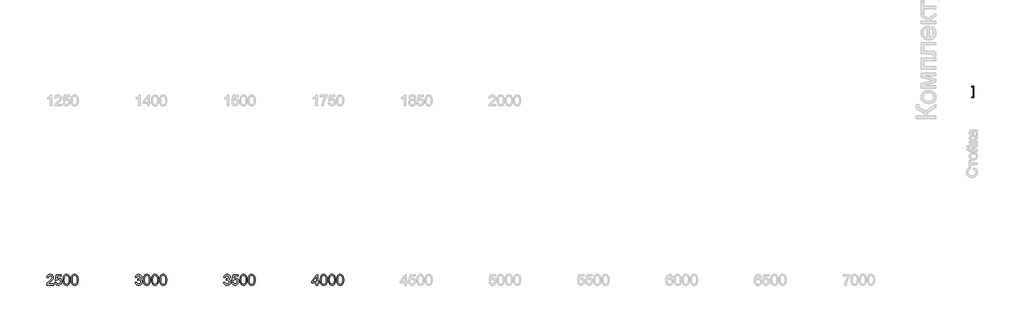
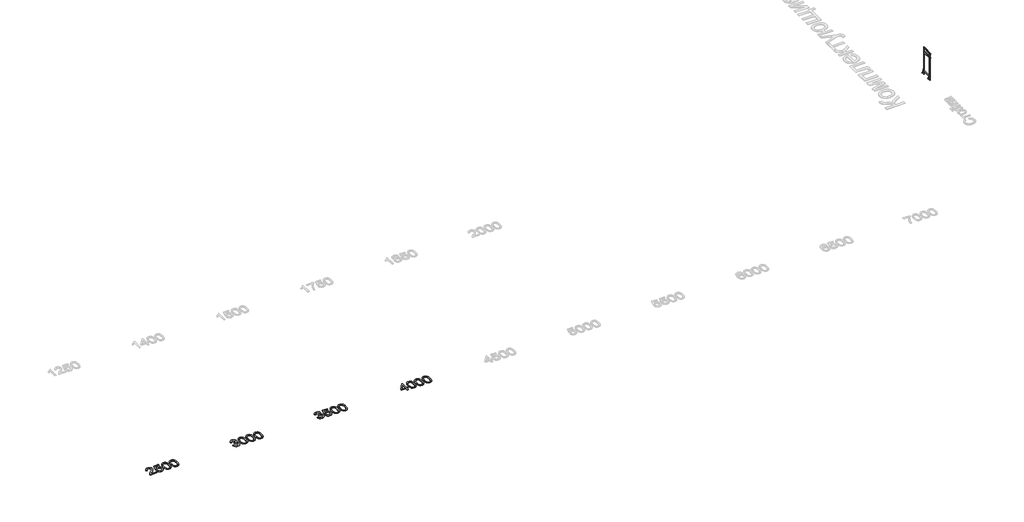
# One storey, part 1 of 8: 5 proxies.
"""IFC4 building model written with IfcOpenShell, lengths in millimetres."""

from ifc_helpers import new_model, si_unit, origin, origin_with_axes, place, context, project, spatial, polyline, outline, extrude, transform, mapped, element, save
from components import mechanical_equipment_65d36d6c

model = new_model("IFC4")

# Units and contexts
model_context = context("Model", 3, world=origin())
ifc_project = project(units=[si_unit("LENGTHUNIT", "METRE", prefix="MILLI")], contexts=[model_context])

# Site, building, storey
site = spatial("IfcSite", under=ifc_project)
building = spatial("IfcBuilding", under=site)
storey = spatial("IfcBuildingStorey", under=building, Name="Этаж 01", Elevation=0.0)

# Proxies
placement = place(None, origin())
element("IfcBuildingElementProxy", 1, Name="600 мм Arial", ObjectType="600 мм Arial", at=placement, inside=storey, context=model_context, shape_type="SweptSolid", body=[
    extrude(outline(polyline([(-17285.2712332, -33688.2668626), (-17209.9290006, -33678.8490835), (-17193.0616111, -33726.1954963), (-17181.6894589, -33744.1021524), (-17168.3583351, -33758.1644417), (-17152.7647371, -33768.7870343), (-17134.6051621, -33776.3746005), (-17113.8796102, -33780.9271402), (-17090.5880813, -33782.4446534), (-17063.2912373, -33780.3569231), (-17038.9374492, -33774.0937321), (-17017.5267171, -33763.6550805), (-16999.0590409, -33749.0409682), (-16984.1874113, -33731.3458443), (-16973.5648187, -33711.6641575), (-16967.1912631, -33689.995908), (-16965.0667446, -33666.3410957), (-16967.172869, -33643.812922), (-16973.4912423, -33623.3172964), (-16984.0218644, -33604.8542187), (-16998.7647353, -33588.4236891), (-17016.7541649, -33574.9362155), (-17037.0244628, -33565.3023057), (-17059.5756292, -33559.5219599), (-17084.4076638, -33557.5951779), (-17108.2096289, -33559.6553171), (-17137.2355183, -33565.8357346), (-17128.8478088, -33490.493502), (-17116.7812794, -33491.3764188), (-17071.6421586, -33485.9685535), (-17031.2855037, -33469.7449575), (-17014.6756316, -33457.476093), (-17002.8114373, -33442.3009607), (-16995.6929207, -33424.2195606), (-16993.3200818, -33403.2318928), (-16995.0399301, -33386.1943579), (-17000.1994751, -33370.6927303), (-17008.7987168, -33356.72701), (-17020.8376551, -33344.2971971), (-17035.5897231, -33334.0930703), (-17052.3283538, -33326.8044083), (-17091.7653037, -33320.9734786), (-17112.4218778, -33322.4450066), (-17131.27583, -33326.8595906), (-17148.3271605, -33334.2172305), (-17163.5758692, -33344.5179263), (-17176.6448771, -33357.7616782), (-17187.1571051, -33373.9484859), (-17195.1125532, -33393.0783497), (-17200.5112215, -33415.1512694), (-17275.8534541, -33405.7334903), (-17266.9231187, -33369.7638283), (-17253.6701698, -33338.0799914), (-17236.0946075, -33310.6819798), (-17214.1964317, -33287.5697935), (-17188.6654213, -33269.221679), (-17160.1913548, -33256.1158829), (-17128.7742324, -33248.2524052), (-17094.4140541, -33245.631246), (-17047.0492472, -33250.7999881), (-17003.5472013, -33266.3062142), (-16966.8693664, -33290.7703668), (-16939.9771925, -33322.8128886), (-16923.477685, -33359.7298468), (-16917.9778492, -33398.8173088), (-16923.2017735, -33435.2376263), (-16938.8735465, -33468.2734295), (-16964.772439, -33496.4164021), (-17000.6777217, -33518.1582281), (-16975.5697756, -33526.0125087), (-16953.5152499, -33537.2145154), (-16934.5141449, -33551.7642483), (-16918.5664604, -33569.6617074), (-16905.948108, -33590.4654342), (-16896.9349991, -33613.7339704), (-16891.5271338, -33639.467316), (-16889.724512, -33667.6654709), (-16893.3297555, -33705.8884102), (-16904.1454862, -33741.0947171), (-16922.171704, -33773.2843917), (-16947.4084088, -33802.4574339), (-16978.1541466, -33826.6640692), (-17012.707463, -33843.954523), (-17051.068358, -33854.3287952), (-17093.2368317, -33857.786886), (-17131.3494064, -33854.834633), (-17166.0774668, -33845.977874), (-17197.4210127, -33831.2166089), (-17225.3800444, -33810.5508378), (-17248.8233245, -33785.1945713), (-17266.619616, -33756.3618199), (-17278.7689189, -33724.0525837), (-17285.2712332, -33688.2668626)])), origin_with_axes(), (0.0, 0.0, 1.0), 20.0),
    extrude(outline(polyline([(-16823.8000584, -33688.2668626), (-16748.4578258, -33678.8490835), (-16742.8292313, -33703.0695144), (-16734.6254628, -33724.0801749), (-16723.8465204, -33741.8810649), (-16710.4924039, -33756.4721845), (-16694.5907047, -33767.8351397), (-16676.1690138, -33775.9515362), (-16655.2273312, -33780.8213741), (-16631.765657, -33782.4446534), (-16603.0708613, -33780.1867776), (-16577.7605801, -33773.4131504), (-16555.8348132, -33762.1237717), (-16537.2935606, -33746.3186415), (-16522.5506896, -33726.779509), (-16512.0200675, -33704.2881235), (-16505.7016943, -33678.844485), (-16503.5955698, -33650.4485935), (-16505.568337, -33623.611602), (-16511.4866386, -33599.7544546), (-16521.3504746, -33578.8771514), (-16535.159845, -33560.9796923), (-16552.9607351, -33546.6230974), (-16574.79913, -33536.3683868), (-16600.6750298, -33530.2155604), (-16630.5884346, -33528.1646183), (-16667.1375108, -33531.4387681), (-16696.7336173, -33541.2612174), (-16720.3700355, -33556.307591), (-16739.0400468, -33575.2535137), (-16814.3822794, -33565.8357346), (-16748.4578258, -33255.0490251), (-16456.5066745, -33255.0490251), (-16456.5066745, -33330.3912577), (-16687.5365674, -33330.3912577), (-16719.7630302, -33496.3796139), (-16693.174359, -33477.3233266), (-16665.9418943, -33463.7116928), (-16638.0656361, -33455.5447125), (-16609.5455845, -33452.8223857), (-16572.853954, -33456.197703), (-16539.1513647, -33466.3236549), (-16508.4378166, -33483.2002415), (-16480.7133097, -33506.8274626), (-16457.7620718, -33535.7613815), (-16441.3683304, -33568.5580614), (-16431.5320855, -33605.2175022), (-16428.2533372, -33645.739704), (-16431.2055902, -33684.7719837), (-16440.0623493, -33721.0819366), (-16454.8236143, -33754.6695628), (-16475.4893854, -33785.5348622), (-16506.7961432, -33817.1451226), (-16543.3268253, -33839.72388), (-16585.0814318, -33853.2711345), (-16632.0599626, -33857.786886), (-16670.9404909, -33854.8852168), (-16706.0594259, -33846.1802091), (-16737.4167675, -33831.6718629), (-16765.0125156, -33811.3601782), (-16787.9729506, -33786.2568306), (-16805.4243528, -33757.3734954), (-16817.3667221, -33724.7101728), (-16823.8000584, -33688.2668626)])), origin_with_axes(), (0.0, 0.0, 1.0), 20.0),
    extrude(outline(polyline([(-16362.3288837, -33551.8562188), (-16356.7922597, -33455.3791656), (-16349.8714796, -33414.4660892), (-16340.1823876, -33378.4366463), (-16327.7663702, -33346.9965313), (-16312.6648143, -33319.8514386), (-16294.8777199, -33297.0013681), (-16274.4050868, -33278.44632), (-16251.1779374, -33264.0897251), (-16225.1272936, -33253.8350145), (-16196.2531555, -33247.6821882), (-16164.5555231, -33245.631246), (-16118.1288153, -33250.4872884), (-16076.5581498, -33265.0554154), (-16041.7933013, -33288.76541), (-16015.7840442, -33321.047055), (-15996.1391457, -33361.6244391), (-15980.4673727, -33410.2216507), (-15970.203465, -33471.9338554), (-15966.7821625, -33551.8562188), (-15972.2636042, -33647.7814491), (-15979.1154064, -33688.5565697), (-15988.7079294, -33724.5400273), (-16001.0273777, -33755.9939379), (-16016.0599557, -33783.1804174), (-16033.8056635, -33806.0994657), (-16054.2645009, -33824.7510828), (-16077.5192416, -33839.2042467), (-16103.6526588, -33849.5279352), (-16132.6647526, -33855.7221483), (-16164.5555231, -33857.786886), (-16206.0526121, -33854.2000365), (-16242.8408117, -33843.4394882), (-16274.9201216, -33825.5052409), (-16302.2905421, -33800.3972948), (-16328.5573165, -33755.0098536), (-16347.3192983, -33698.4571939), (-16358.5764873, -33630.7393156), (-16362.3288837, -33551.8562188)]), holes=[polyline([(-16286.9866511, -33551.709066), (-16284.7793591, -33617.2058567), (-16278.1574832, -33670.2222508), (-16267.1210233, -33710.7582481), (-16251.6699795, -33738.8138488), (-16232.9815742, -33757.9023258), (-16212.2330297, -33771.5369522), (-16189.424346, -33779.7177281), (-16164.5555231, -33782.4446534), (-16139.6867002, -33779.7085311), (-16116.8780165, -33771.500164), (-16096.129472, -33757.8195523), (-16077.4410666, -33738.666696), (-16061.9900228, -33710.5651101), (-16050.953563, -33670.0383098), (-16044.3316871, -33617.0862951), (-16042.1243951, -33551.709066), (-16044.2581107, -33487.9459192), (-16050.6592574, -33435.8630257), (-16061.3278352, -33395.4603856), (-16076.2638442, -33366.7379988), (-16094.6395499, -33346.7160213), (-16115.6272177, -33332.4146087), (-16139.2268477, -33323.8337612), (-16165.4384399, -33320.9734786), (-16190.1785041, -33323.4934703), (-16212.6009117, -33331.0534453), (-16232.7056627, -33343.6534036), (-16250.4927572, -33361.2933453), (-16266.4588358, -33392.5633149), (-16277.8631776, -33434.7225915), (-16284.7057827, -33487.7711753), (-16286.9866511, -33551.709066)])]), origin_with_axes(), (0.0, 0.0, 1.0), 20.0),
    extrude(outline(polyline([(-15900.8577089, -33551.8562188), (-15895.3210849, -33455.3791656), (-15888.4003049, -33414.4660892), (-15878.7112128, -33378.4366463), (-15866.2951955, -33346.9965313), (-15851.1936396, -33319.8514386), (-15833.4065451, -33297.0013681), (-15812.9339121, -33278.44632), (-15789.7067626, -33264.0897251), (-15763.6561188, -33253.8350145), (-15734.7819807, -33247.6821882), (-15703.0843483, -33245.631246), (-15656.6576405, -33250.4872884), (-15615.0869751, -33265.0554154), (-15580.3221265, -33288.76541), (-15554.3128695, -33321.047055), (-15534.6679709, -33361.6244391), (-15518.996198, -33410.2216507), (-15508.7322903, -33471.9338554), (-15505.3109877, -33551.8562188), (-15510.7924295, -33647.7814491), (-15517.6442316, -33688.5565697), (-15527.2367546, -33724.5400273), (-15539.556203, -33755.9939379), (-15554.588781, -33783.1804174), (-15572.3344887, -33806.0994657), (-15592.7933262, -33824.7510828), (-15616.0480668, -33839.2042467), (-15642.181484, -33849.5279352), (-15671.1935779, -33855.7221483), (-15703.0843483, -33857.786886), (-15744.5814374, -33854.2000365), (-15781.3696369, -33843.4394882), (-15813.4489469, -33825.5052409), (-15840.8193673, -33800.3972948), (-15867.0861418, -33755.0098536), (-15885.8481235, -33698.4571939), (-15897.1053126, -33630.7393156), (-15900.8577089, -33551.8562188)]), holes=[polyline([(-15825.5154763, -33551.709066), (-15823.3081844, -33617.2058567), (-15816.6863084, -33670.2222508), (-15805.6498486, -33710.7582481), (-15790.1988048, -33738.8138488), (-15771.5103994, -33757.9023258), (-15750.7618549, -33771.5369522), (-15727.9531712, -33779.7177281), (-15703.0843483, -33782.4446534), (-15678.2155255, -33779.7085311), (-15655.4068418, -33771.500164), (-15634.6582972, -33757.8195523), (-15615.9698919, -33738.666696), (-15600.5188481, -33710.5651101), (-15589.4823882, -33670.0383098), (-15582.8605123, -33617.0862951), (-15580.6532203, -33551.709066), (-15582.7869359, -33487.9459192), (-15589.1880826, -33435.8630257), (-15599.8566605, -33395.4603856), (-15614.7926695, -33366.7379988), (-15633.1683752, -33346.7160213), (-15654.156043, -33332.4146087), (-15677.755673, -33323.8337612), (-15703.9672651, -33320.9734786), (-15728.7073293, -33323.4934703), (-15751.1297369, -33331.0534453), (-15771.2344879, -33343.6534036), (-15789.0215824, -33361.2933453), (-15804.987661, -33392.5633149), (-15816.3920029, -33434.7225915), (-15823.234608, -33487.7711753), (-15825.5154763, -33551.709066)])]), origin_with_axes(), (0.0, 0.0, 1.0), 20.0),
])
element("IfcBuildingElementProxy", 2, Name="600 мм Arial", ObjectType="600 мм Arial", at=placement, inside=storey, context=model_context, shape_type="SweptSolid", body=[
    extrude(outline(polyline([(-12040.4089772, -33848.3691069), (-12040.4089772, -33707.1024208), (-12313.5245704, -33707.1024208), (-12313.5245704, -33631.7601882), (-12021.5734191, -33255.0490251), (-11965.0667446, -33255.0490251), (-11965.0667446, -33631.7601882), (-11889.724512, -33631.7601882), (-11889.724512, -33707.1024208), (-11965.0667446, -33707.1024208), (-11965.0667446, -33848.3691069), (-12040.4089772, -33848.3691069)]), holes=[polyline([(-12040.4089772, -33631.7601882), (-12040.4089772, -33398.9644616), (-12220.8183076, -33631.7601882), (-12040.4089772, -33631.7601882)])]), origin_with_axes(), (0.0, 0.0, 1.0), 20.0),
    extrude(outline(polyline([(-11823.8000584, -33551.8562188), (-11818.2634344, -33455.3791656), (-11811.3426544, -33414.4660892), (-11801.6535623, -33378.4366463), (-11789.237545, -33346.9965313), (-11774.1359891, -33319.8514386), (-11756.3488946, -33297.0013681), (-11735.8762616, -33278.44632), (-11712.6491121, -33264.0897251), (-11686.5984683, -33253.8350145), (-11657.7243302, -33247.6821882), (-11626.0266978, -33245.631246), (-11579.59999, -33250.4872884), (-11538.0293246, -33265.0554154), (-11503.264476, -33288.76541), (-11477.255219, -33321.047055), (-11457.6103204, -33361.6244391), (-11441.9385475, -33410.2216507), (-11431.6746398, -33471.9338554), (-11428.2533372, -33551.8562188), (-11433.734779, -33647.7814491), (-11440.5865811, -33688.5565697), (-11450.1791041, -33724.5400273), (-11462.4985525, -33755.9939379), (-11477.5311305, -33783.1804174), (-11495.2768382, -33806.0994657), (-11515.7356757, -33824.7510828), (-11538.9904163, -33839.2042467), (-11565.1238335, -33849.5279352), (-11594.1359274, -33855.7221483), (-11626.0266978, -33857.786886), (-11667.5237869, -33854.2000365), (-11704.3119864, -33843.4394882), (-11736.3912964, -33825.5052409), (-11763.7617168, -33800.3972948), (-11790.0284913, -33755.0098536), (-11808.790473, -33698.4571939), (-11820.0476621, -33630.7393156), (-11823.8000584, -33551.8562188)]), holes=[polyline([(-11748.4578258, -33551.709066), (-11746.2505339, -33617.2058567), (-11739.6286579, -33670.2222508), (-11728.5921981, -33710.7582481), (-11713.1411543, -33738.8138488), (-11694.4527489, -33757.9023258), (-11673.7042044, -33771.5369522), (-11650.8955207, -33779.7177281), (-11626.0266978, -33782.4446534), (-11601.157875, -33779.7085311), (-11578.3491913, -33771.500164), (-11557.6006467, -33757.8195523), (-11538.9122414, -33738.666696), (-11523.4611976, -33710.5651101), (-11512.4247377, -33670.0383098), (-11505.8028618, -33617.0862951), (-11503.5955698, -33551.709066), (-11505.7292854, -33487.9459192), (-11512.1304321, -33435.8630257), (-11522.79901, -33395.4603856), (-11537.735019, -33366.7379988), (-11556.1107247, -33346.7160213), (-11577.0983925, -33332.4146087), (-11600.6980225, -33323.8337612), (-11626.9096146, -33320.9734786), (-11651.6496788, -33323.4934703), (-11674.0720864, -33331.0534453), (-11694.1768374, -33343.6534036), (-11711.9639319, -33361.2933453), (-11727.9300105, -33392.5633149), (-11739.3343524, -33434.7225915), (-11746.1769575, -33487.7711753), (-11748.4578258, -33551.709066)])]), origin_with_axes(), (0.0, 0.0, 1.0), 20.0),
    extrude(outline(polyline([(-11362.3288837, -33551.8562188), (-11356.7922597, -33455.3791656), (-11349.8714796, -33414.4660892), (-11340.1823876, -33378.4366463), (-11327.7663702, -33346.9965313), (-11312.6648143, -33319.8514386), (-11294.8777199, -33297.0013681), (-11274.4050868, -33278.44632), (-11251.1779374, -33264.0897251), (-11225.1272936, -33253.8350145), (-11196.2531555, -33247.6821882), (-11164.5555231, -33245.631246), (-11118.1288153, -33250.4872884), (-11076.5581498, -33265.0554154), (-11041.7933013, -33288.76541), (-11015.7840442, -33321.047055), (-10996.1391457, -33361.6244391), (-10980.4673727, -33410.2216507), (-10970.203465, -33471.9338554), (-10966.7821625, -33551.8562188), (-10972.2636042, -33647.7814491), (-10979.1154064, -33688.5565697), (-10988.7079294, -33724.5400273), (-11001.0273777, -33755.9939379), (-11016.0599557, -33783.1804174), (-11033.8056635, -33806.0994657), (-11054.2645009, -33824.7510828), (-11077.5192416, -33839.2042467), (-11103.6526588, -33849.5279352), (-11132.6647526, -33855.7221483), (-11164.5555231, -33857.786886), (-11206.0526121, -33854.2000365), (-11242.8408117, -33843.4394882), (-11274.9201216, -33825.5052409), (-11302.2905421, -33800.3972948), (-11328.5573165, -33755.0098536), (-11347.3192983, -33698.4571939), (-11358.5764873, -33630.7393156), (-11362.3288837, -33551.8562188)]), holes=[polyline([(-11286.9866511, -33551.709066), (-11284.7793591, -33617.2058567), (-11278.1574832, -33670.2222508), (-11267.1210233, -33710.7582481), (-11251.6699795, -33738.8138488), (-11232.9815742, -33757.9023258), (-11212.2330297, -33771.5369522), (-11189.424346, -33779.7177281), (-11164.5555231, -33782.4446534), (-11139.6867002, -33779.7085311), (-11116.8780165, -33771.500164), (-11096.129472, -33757.8195523), (-11077.4410666, -33738.666696), (-11061.9900228, -33710.5651101), (-11050.953563, -33670.0383098), (-11044.3316871, -33617.0862951), (-11042.1243951, -33551.709066), (-11044.2581107, -33487.9459192), (-11050.6592574, -33435.8630257), (-11061.3278352, -33395.4603856), (-11076.2638442, -33366.7379988), (-11094.6395499, -33346.7160213), (-11115.6272177, -33332.4146087), (-11139.2268477, -33323.8337612), (-11165.4384399, -33320.9734786), (-11190.1785041, -33323.4934703), (-11212.6009117, -33331.0534453), (-11232.7056627, -33343.6534036), (-11250.4927572, -33361.2933453), (-11266.4588358, -33392.5633149), (-11277.8631776, -33434.7225915), (-11284.7057827, -33487.7711753), (-11286.9866511, -33551.709066)])]), origin_with_axes(), (0.0, 0.0, 1.0), 20.0),
    extrude(outline(polyline([(-10900.8577089, -33551.8562188), (-10895.3210849, -33455.3791656), (-10888.4003049, -33414.4660892), (-10878.7112128, -33378.4366463), (-10866.2951955, -33346.9965313), (-10851.1936396, -33319.8514386), (-10833.4065451, -33297.0013681), (-10812.9339121, -33278.44632), (-10789.7067626, -33264.0897251), (-10763.6561188, -33253.8350145), (-10734.7819807, -33247.6821882), (-10703.0843483, -33245.631246), (-10656.6576405, -33250.4872884), (-10615.0869751, -33265.0554154), (-10580.3221265, -33288.76541), (-10554.3128695, -33321.047055), (-10534.6679709, -33361.6244391), (-10518.996198, -33410.2216507), (-10508.7322903, -33471.9338554), (-10505.3109877, -33551.8562188), (-10510.7924295, -33647.7814491), (-10517.6442316, -33688.5565697), (-10527.2367546, -33724.5400273), (-10539.556203, -33755.9939379), (-10554.588781, -33783.1804174), (-10572.3344887, -33806.0994657), (-10592.7933262, -33824.7510828), (-10616.0480668, -33839.2042467), (-10642.181484, -33849.5279352), (-10671.1935779, -33855.7221483), (-10703.0843483, -33857.786886), (-10744.5814374, -33854.2000365), (-10781.3696369, -33843.4394882), (-10813.4489469, -33825.5052409), (-10840.8193673, -33800.3972948), (-10867.0861418, -33755.0098536), (-10885.8481235, -33698.4571939), (-10897.1053126, -33630.7393156), (-10900.8577089, -33551.8562188)]), holes=[polyline([(-10825.5154763, -33551.709066), (-10823.3081844, -33617.2058567), (-10816.6863084, -33670.2222508), (-10805.6498486, -33710.7582481), (-10790.1988048, -33738.8138488), (-10771.5103994, -33757.9023258), (-10750.7618549, -33771.5369522), (-10727.9531712, -33779.7177281), (-10703.0843483, -33782.4446534), (-10678.2155255, -33779.7085311), (-10655.4068418, -33771.500164), (-10634.6582972, -33757.8195523), (-10615.9698919, -33738.666696), (-10600.5188481, -33710.5651101), (-10589.4823882, -33670.0383098), (-10582.8605123, -33617.0862951), (-10580.6532203, -33551.709066), (-10582.7869359, -33487.9459192), (-10589.1880826, -33435.8630257), (-10599.8566605, -33395.4603856), (-10614.7926695, -33366.7379988), (-10633.1683752, -33346.7160213), (-10654.156043, -33332.4146087), (-10677.755673, -33323.8337612), (-10703.9672651, -33320.9734786), (-10728.7073293, -33323.4934703), (-10751.1297369, -33331.0534453), (-10771.2344879, -33343.6534036), (-10789.0215824, -33361.2933453), (-10804.987661, -33392.5633149), (-10816.3920029, -33434.7225915), (-10823.234608, -33487.7711753), (-10825.5154763, -33551.709066)])]), origin_with_axes(), (0.0, 0.0, 1.0), 20.0),
])
element("IfcBuildingElementProxy", 3, Name="600 мм Arial", ObjectType="600 мм Arial", at=placement, inside=storey, context=model_context, shape_type="SweptSolid", body=[
    extrude(outline(polyline([(-22285.2712332, -33688.2668626), (-22209.9290006, -33678.8490835), (-22193.0616111, -33726.1954963), (-22181.6894589, -33744.1021524), (-22168.3583351, -33758.1644417), (-22152.7647371, -33768.7870343), (-22134.6051621, -33776.3746005), (-22113.8796102, -33780.9271402), (-22090.5880813, -33782.4446534), (-22063.2912373, -33780.3569231), (-22038.9374492, -33774.0937321), (-22017.5267171, -33763.6550805), (-21999.0590409, -33749.0409682), (-21984.1874113, -33731.3458443), (-21973.5648187, -33711.6641575), (-21967.1912631, -33689.995908), (-21965.0667446, -33666.3410957), (-21967.172869, -33643.812922), (-21973.4912423, -33623.3172964), (-21984.0218644, -33604.8542187), (-21998.7647353, -33588.4236891), (-22016.7541649, -33574.9362155), (-22037.0244628, -33565.3023057), (-22059.5756292, -33559.5219599), (-22084.4076638, -33557.5951779), (-22108.2096289, -33559.6553171), (-22137.2355183, -33565.8357346), (-22128.8478088, -33490.493502), (-22116.7812794, -33491.3764188), (-22071.6421586, -33485.9685535), (-22031.2855037, -33469.7449575), (-22014.6756316, -33457.476093), (-22002.8114373, -33442.3009607), (-21995.6929207, -33424.2195606), (-21993.3200818, -33403.2318928), (-21995.0399301, -33386.1943579), (-22000.1994751, -33370.6927303), (-22008.7987168, -33356.72701), (-22020.8376551, -33344.2971971), (-22035.5897231, -33334.0930703), (-22052.3283538, -33326.8044083), (-22091.7653037, -33320.9734786), (-22112.4218778, -33322.4450066), (-22131.27583, -33326.8595906), (-22148.3271605, -33334.2172305), (-22163.5758692, -33344.5179263), (-22176.6448771, -33357.7616782), (-22187.1571051, -33373.9484859), (-22195.1125532, -33393.0783497), (-22200.5112215, -33415.1512694), (-22275.8534541, -33405.7334903), (-22266.9231187, -33369.7638283), (-22253.6701698, -33338.0799914), (-22236.0946075, -33310.6819798), (-22214.1964317, -33287.5697935), (-22188.6654213, -33269.221679), (-22160.1913548, -33256.1158829), (-22128.7742324, -33248.2524052), (-22094.4140541, -33245.631246), (-22047.0492472, -33250.7999881), (-22003.5472013, -33266.3062142), (-21966.8693664, -33290.7703668), (-21939.9771925, -33322.8128886), (-21923.477685, -33359.7298468), (-21917.9778492, -33398.8173088), (-21923.2017735, -33435.2376263), (-21938.8735465, -33468.2734295), (-21964.772439, -33496.4164021), (-22000.6777217, -33518.1582281), (-21975.5697756, -33526.0125087), (-21953.5152499, -33537.2145154), (-21934.5141449, -33551.7642483), (-21918.5664604, -33569.6617074), (-21905.948108, -33590.4654342), (-21896.9349991, -33613.7339704), (-21891.5271338, -33639.467316), (-21889.724512, -33667.6654709), (-21893.3297555, -33705.8884102), (-21904.1454862, -33741.0947171), (-21922.171704, -33773.2843917), (-21947.4084088, -33802.4574339), (-21978.1541466, -33826.6640692), (-22012.707463, -33843.954523), (-22051.068358, -33854.3287952), (-22093.2368317, -33857.786886), (-22131.3494064, -33854.834633), (-22166.0774668, -33845.977874), (-22197.4210127, -33831.2166089), (-22225.3800444, -33810.5508378), (-22248.8233245, -33785.1945713), (-22266.619616, -33756.3618199), (-22278.7689189, -33724.0525837), (-22285.2712332, -33688.2668626)])), origin_with_axes(), (0.0, 0.0, 1.0), 20.0),
    extrude(outline(polyline([(-21823.8000584, -33551.8562188), (-21818.2634344, -33455.3791656), (-21811.3426544, -33414.4660892), (-21801.6535623, -33378.4366463), (-21789.237545, -33346.9965313), (-21774.1359891, -33319.8514386), (-21756.3488946, -33297.0013681), (-21735.8762616, -33278.44632), (-21712.6491121, -33264.0897251), (-21686.5984683, -33253.8350145), (-21657.7243302, -33247.6821882), (-21626.0266978, -33245.631246), (-21579.59999, -33250.4872884), (-21538.0293246, -33265.0554154), (-21503.264476, -33288.76541), (-21477.255219, -33321.047055), (-21457.6103204, -33361.6244391), (-21441.9385475, -33410.2216507), (-21431.6746398, -33471.9338554), (-21428.2533372, -33551.8562188), (-21433.734779, -33647.7814491), (-21440.5865811, -33688.5565697), (-21450.1791041, -33724.5400273), (-21462.4985525, -33755.9939379), (-21477.5311305, -33783.1804174), (-21495.2768382, -33806.0994657), (-21515.7356757, -33824.7510828), (-21538.9904163, -33839.2042467), (-21565.1238335, -33849.5279352), (-21594.1359274, -33855.7221483), (-21626.0266978, -33857.786886), (-21667.5237869, -33854.2000365), (-21704.3119864, -33843.4394882), (-21736.3912964, -33825.5052409), (-21763.7617168, -33800.3972948), (-21790.0284913, -33755.0098536), (-21808.790473, -33698.4571939), (-21820.0476621, -33630.7393156), (-21823.8000584, -33551.8562188)]), holes=[polyline([(-21748.4578258, -33551.709066), (-21746.2505339, -33617.2058567), (-21739.6286579, -33670.2222508), (-21728.5921981, -33710.7582481), (-21713.1411543, -33738.8138488), (-21694.4527489, -33757.9023258), (-21673.7042044, -33771.5369522), (-21650.8955207, -33779.7177281), (-21626.0266978, -33782.4446534), (-21601.157875, -33779.7085311), (-21578.3491913, -33771.500164), (-21557.6006467, -33757.8195523), (-21538.9122414, -33738.666696), (-21523.4611976, -33710.5651101), (-21512.4247377, -33670.0383098), (-21505.8028618, -33617.0862951), (-21503.5955698, -33551.709066), (-21505.7292854, -33487.9459192), (-21512.1304321, -33435.8630257), (-21522.79901, -33395.4603856), (-21537.735019, -33366.7379988), (-21556.1107247, -33346.7160213), (-21577.0983925, -33332.4146087), (-21600.6980225, -33323.8337612), (-21626.9096146, -33320.9734786), (-21651.6496788, -33323.4934703), (-21674.0720864, -33331.0534453), (-21694.1768374, -33343.6534036), (-21711.9639319, -33361.2933453), (-21727.9300105, -33392.5633149), (-21739.3343524, -33434.7225915), (-21746.1769575, -33487.7711753), (-21748.4578258, -33551.709066)])]), origin_with_axes(), (0.0, 0.0, 1.0), 20.0),
    extrude(outline(polyline([(-21362.3288837, -33551.8562188), (-21356.7922597, -33455.3791656), (-21349.8714796, -33414.4660892), (-21340.1823876, -33378.4366463), (-21327.7663702, -33346.9965313), (-21312.6648143, -33319.8514386), (-21294.8777199, -33297.0013681), (-21274.4050868, -33278.44632), (-21251.1779374, -33264.0897251), (-21225.1272936, -33253.8350145), (-21196.2531555, -33247.6821882), (-21164.5555231, -33245.631246), (-21118.1288153, -33250.4872884), (-21076.5581498, -33265.0554154), (-21041.7933013, -33288.76541), (-21015.7840442, -33321.047055), (-20996.1391457, -33361.6244391), (-20980.4673727, -33410.2216507), (-20970.203465, -33471.9338554), (-20966.7821625, -33551.8562188), (-20972.2636042, -33647.7814491), (-20979.1154064, -33688.5565697), (-20988.7079294, -33724.5400273), (-21001.0273777, -33755.9939379), (-21016.0599557, -33783.1804174), (-21033.8056635, -33806.0994657), (-21054.2645009, -33824.7510828), (-21077.5192416, -33839.2042467), (-21103.6526588, -33849.5279352), (-21132.6647526, -33855.7221483), (-21164.5555231, -33857.786886), (-21206.0526121, -33854.2000365), (-21242.8408117, -33843.4394882), (-21274.9201216, -33825.5052409), (-21302.2905421, -33800.3972948), (-21328.5573165, -33755.0098536), (-21347.3192983, -33698.4571939), (-21358.5764873, -33630.7393156), (-21362.3288837, -33551.8562188)]), holes=[polyline([(-21286.9866511, -33551.709066), (-21284.7793591, -33617.2058567), (-21278.1574832, -33670.2222508), (-21267.1210233, -33710.7582481), (-21251.6699795, -33738.8138488), (-21232.9815742, -33757.9023258), (-21212.2330297, -33771.5369522), (-21189.424346, -33779.7177281), (-21164.5555231, -33782.4446534), (-21139.6867002, -33779.7085311), (-21116.8780165, -33771.500164), (-21096.129472, -33757.8195523), (-21077.4410666, -33738.666696), (-21061.9900228, -33710.5651101), (-21050.953563, -33670.0383098), (-21044.3316871, -33617.0862951), (-21042.1243951, -33551.709066), (-21044.2581107, -33487.9459192), (-21050.6592574, -33435.8630257), (-21061.3278352, -33395.4603856), (-21076.2638442, -33366.7379988), (-21094.6395499, -33346.7160213), (-21115.6272177, -33332.4146087), (-21139.2268477, -33323.8337612), (-21165.4384399, -33320.9734786), (-21190.1785041, -33323.4934703), (-21212.6009117, -33331.0534453), (-21232.7056627, -33343.6534036), (-21250.4927572, -33361.2933453), (-21266.4588358, -33392.5633149), (-21277.8631776, -33434.7225915), (-21284.7057827, -33487.7711753), (-21286.9866511, -33551.709066)])]), origin_with_axes(), (0.0, 0.0, 1.0), 20.0),
    extrude(outline(polyline([(-20900.8577089, -33551.8562188), (-20895.3210849, -33455.3791656), (-20888.4003049, -33414.4660892), (-20878.7112128, -33378.4366463), (-20866.2951955, -33346.9965313), (-20851.1936396, -33319.8514386), (-20833.4065451, -33297.0013681), (-20812.9339121, -33278.44632), (-20789.7067626, -33264.0897251), (-20763.6561188, -33253.8350145), (-20734.7819807, -33247.6821882), (-20703.0843483, -33245.631246), (-20656.6576405, -33250.4872884), (-20615.0869751, -33265.0554154), (-20580.3221265, -33288.76541), (-20554.3128695, -33321.047055), (-20534.6679709, -33361.6244391), (-20518.996198, -33410.2216507), (-20508.7322903, -33471.9338554), (-20505.3109877, -33551.8562188), (-20510.7924295, -33647.7814491), (-20517.6442316, -33688.5565697), (-20527.2367546, -33724.5400273), (-20539.556203, -33755.9939379), (-20554.588781, -33783.1804174), (-20572.3344887, -33806.0994657), (-20592.7933262, -33824.7510828), (-20616.0480668, -33839.2042467), (-20642.181484, -33849.5279352), (-20671.1935779, -33855.7221483), (-20703.0843483, -33857.786886), (-20744.5814374, -33854.2000365), (-20781.3696369, -33843.4394882), (-20813.4489469, -33825.5052409), (-20840.8193673, -33800.3972948), (-20867.0861418, -33755.0098536), (-20885.8481235, -33698.4571939), (-20897.1053126, -33630.7393156), (-20900.8577089, -33551.8562188)]), holes=[polyline([(-20825.5154763, -33551.709066), (-20823.3081844, -33617.2058567), (-20816.6863084, -33670.2222508), (-20805.6498486, -33710.7582481), (-20790.1988048, -33738.8138488), (-20771.5103994, -33757.9023258), (-20750.7618549, -33771.5369522), (-20727.9531712, -33779.7177281), (-20703.0843483, -33782.4446534), (-20678.2155255, -33779.7085311), (-20655.4068418, -33771.500164), (-20634.6582972, -33757.8195523), (-20615.9698919, -33738.666696), (-20600.5188481, -33710.5651101), (-20589.4823882, -33670.0383098), (-20582.8605123, -33617.0862951), (-20580.6532203, -33551.709066), (-20582.7869359, -33487.9459192), (-20589.1880826, -33435.8630257), (-20599.8566605, -33395.4603856), (-20614.7926695, -33366.7379988), (-20633.1683752, -33346.7160213), (-20654.156043, -33332.4146087), (-20677.755673, -33323.8337612), (-20703.9672651, -33320.9734786), (-20728.7073293, -33323.4934703), (-20751.1297369, -33331.0534453), (-20771.2344879, -33343.6534036), (-20789.0215824, -33361.2933453), (-20804.987661, -33392.5633149), (-20816.3920029, -33434.7225915), (-20823.234608, -33487.7711753), (-20825.5154763, -33551.709066)])]), origin_with_axes(), (0.0, 0.0, 1.0), 20.0),
])
element("IfcBuildingElementProxy", 4, Name="600 мм Arial", ObjectType="600 мм Arial", at=placement, inside=storey, context=model_context, shape_type="SweptSolid", body=[
    extrude(outline(polyline([(-26899.1422911, -33773.0268743), (-26899.1422911, -33848.3691069), (-27294.6890123, -33848.3691069), (-27293.0335433, -33821.8448151), (-27286.5956084, -33796.4241692), (-27268.0175676, -33755.828391), (-27240.8310882, -33716.4466235), (-27201.5045029, -33675.2254459), (-27146.5061446, -33629.1114378), (-27065.2042237, -33556.8962021), (-27016.4230711, -33503.590101), (-27002.195235, -33481.8114869), (-26992.0324948, -33460.3271784), (-26985.9348508, -33439.1371755), (-26983.9023027, -33418.2414782), (-26985.8198876, -33398.582784), (-26991.5726423, -33380.5151796), (-27001.1605668, -33364.0386647), (-27014.5836611, -33349.1532395), (-27031.0969642, -33336.8245941), (-27049.955515, -33328.0184188), (-27071.1593135, -33322.7347137), (-27094.7083597, -33320.9734786), (-27119.5174017, -33322.693327), (-27141.7052846, -33327.852872), (-27161.2720082, -33336.4521136), (-27178.2175726, -33348.4910519), (-27191.9257754, -33363.5650166), (-27201.7804144, -33381.2693377), (-27207.7814894, -33401.6040149), (-27209.9290006, -33424.5690485), (-27285.2712332, -33415.1512694), (-27278.7919116, -33376.2569455), (-27267.0058921, -33342.2738462), (-27249.9131749, -33313.2019715), (-27227.51376, -33289.0413215), (-27200.322682, -33270.0494135), (-27168.8549758, -33256.4837649), (-27133.1106415, -33248.3443757), (-27093.0896789, -33245.631246), (-27052.7100314, -33248.6478784), (-27016.772559, -33257.6977755), (-26985.2772617, -33272.7809373), (-26958.2241395, -33293.8973638), (-26936.4961091, -33319.4835566), (-26920.9760875, -33347.9760171), (-26911.6640745, -33379.3747454), (-26908.5600701, -33413.6797414), (-26911.9077963, -33449.7137829), (-26921.9509748, -33485.1224249), (-26939.7748574, -33521.1380722), (-26966.4646962, -33558.9931295), (-27009.0102489, -33604.1874326), (-27074.4012736, -33662.2208174), (-27161.0742716, -33734.6935704), (-27195.066568, -33773.0268743), (-26899.1422911, -33773.0268743)])), origin_with_axes(), (0.0, 0.0, 1.0), 20.0),
    extrude(outline(polyline([(-26823.8000584, -33688.2668626), (-26748.4578258, -33678.8490835), (-26742.8292313, -33703.0695144), (-26734.6254628, -33724.0801749), (-26723.8465204, -33741.8810649), (-26710.4924039, -33756.4721845), (-26694.5907047, -33767.8351397), (-26676.1690138, -33775.9515362), (-26655.2273312, -33780.8213741), (-26631.765657, -33782.4446534), (-26603.0708613, -33780.1867776), (-26577.7605801, -33773.4131504), (-26555.8348132, -33762.1237717), (-26537.2935606, -33746.3186415), (-26522.5506896, -33726.779509), (-26512.0200675, -33704.2881235), (-26505.7016943, -33678.844485), (-26503.5955698, -33650.4485935), (-26505.568337, -33623.611602), (-26511.4866386, -33599.7544546), (-26521.3504746, -33578.8771514), (-26535.159845, -33560.9796923), (-26552.9607351, -33546.6230974), (-26574.79913, -33536.3683868), (-26600.6750298, -33530.2155604), (-26630.5884346, -33528.1646183), (-26667.1375108, -33531.4387681), (-26696.7336173, -33541.2612174), (-26720.3700355, -33556.307591), (-26739.0400468, -33575.2535137), (-26814.3822794, -33565.8357346), (-26748.4578258, -33255.0490251), (-26456.5066745, -33255.0490251), (-26456.5066745, -33330.3912577), (-26687.5365674, -33330.3912577), (-26719.7630302, -33496.3796139), (-26693.174359, -33477.3233266), (-26665.9418943, -33463.7116928), (-26638.0656361, -33455.5447125), (-26609.5455845, -33452.8223857), (-26572.853954, -33456.197703), (-26539.1513647, -33466.3236549), (-26508.4378166, -33483.2002415), (-26480.7133097, -33506.8274626), (-26457.7620718, -33535.7613815), (-26441.3683304, -33568.5580614), (-26431.5320855, -33605.2175022), (-26428.2533372, -33645.739704), (-26431.2055902, -33684.7719837), (-26440.0623493, -33721.0819366), (-26454.8236143, -33754.6695628), (-26475.4893854, -33785.5348622), (-26506.7961432, -33817.1451226), (-26543.3268253, -33839.72388), (-26585.0814318, -33853.2711345), (-26632.0599626, -33857.786886), (-26670.9404909, -33854.8852168), (-26706.0594259, -33846.1802091), (-26737.4167675, -33831.6718629), (-26765.0125156, -33811.3601782), (-26787.9729506, -33786.2568306), (-26805.4243528, -33757.3734954), (-26817.3667221, -33724.7101728), (-26823.8000584, -33688.2668626)])), origin_with_axes(), (0.0, 0.0, 1.0), 20.0),
    extrude(outline(polyline([(-26362.3288837, -33551.8562188), (-26356.7922597, -33455.3791656), (-26349.8714796, -33414.4660892), (-26340.1823876, -33378.4366463), (-26327.7663702, -33346.9965313), (-26312.6648143, -33319.8514386), (-26294.8777199, -33297.0013681), (-26274.4050868, -33278.44632), (-26251.1779374, -33264.0897251), (-26225.1272936, -33253.8350145), (-26196.2531555, -33247.6821882), (-26164.5555231, -33245.631246), (-26118.1288153, -33250.4872884), (-26076.5581498, -33265.0554154), (-26041.7933013, -33288.76541), (-26015.7840442, -33321.047055), (-25996.1391457, -33361.6244391), (-25980.4673727, -33410.2216507), (-25970.203465, -33471.9338554), (-25966.7821625, -33551.8562188), (-25972.2636042, -33647.7814491), (-25979.1154064, -33688.5565697), (-25988.7079294, -33724.5400273), (-26001.0273777, -33755.9939379), (-26016.0599557, -33783.1804174), (-26033.8056635, -33806.0994657), (-26054.2645009, -33824.7510828), (-26077.5192416, -33839.2042467), (-26103.6526588, -33849.5279352), (-26132.6647526, -33855.7221483), (-26164.5555231, -33857.786886), (-26206.0526121, -33854.2000365), (-26242.8408117, -33843.4394882), (-26274.9201216, -33825.5052409), (-26302.2905421, -33800.3972948), (-26328.5573165, -33755.0098536), (-26347.3192983, -33698.4571939), (-26358.5764873, -33630.7393156), (-26362.3288837, -33551.8562188)]), holes=[polyline([(-26286.9866511, -33551.709066), (-26284.7793591, -33617.2058567), (-26278.1574832, -33670.2222508), (-26267.1210233, -33710.7582481), (-26251.6699795, -33738.8138488), (-26232.9815742, -33757.9023258), (-26212.2330297, -33771.5369522), (-26189.424346, -33779.7177281), (-26164.5555231, -33782.4446534), (-26139.6867002, -33779.7085311), (-26116.8780165, -33771.500164), (-26096.129472, -33757.8195523), (-26077.4410666, -33738.666696), (-26061.9900228, -33710.5651101), (-26050.953563, -33670.0383098), (-26044.3316871, -33617.0862951), (-26042.1243951, -33551.709066), (-26044.2581107, -33487.9459192), (-26050.6592574, -33435.8630257), (-26061.3278352, -33395.4603856), (-26076.2638442, -33366.7379988), (-26094.6395499, -33346.7160213), (-26115.6272177, -33332.4146087), (-26139.2268477, -33323.8337612), (-26165.4384399, -33320.9734786), (-26190.1785041, -33323.4934703), (-26212.6009117, -33331.0534453), (-26232.7056627, -33343.6534036), (-26250.4927572, -33361.2933453), (-26266.4588358, -33392.5633149), (-26277.8631776, -33434.7225915), (-26284.7057827, -33487.7711753), (-26286.9866511, -33551.709066)])]), origin_with_axes(), (0.0, 0.0, 1.0), 20.0),
    extrude(outline(polyline([(-25900.8577089, -33551.8562188), (-25895.3210849, -33455.3791656), (-25888.4003049, -33414.4660892), (-25878.7112128, -33378.4366463), (-25866.2951955, -33346.9965313), (-25851.1936396, -33319.8514386), (-25833.4065451, -33297.0013681), (-25812.9339121, -33278.44632), (-25789.7067626, -33264.0897251), (-25763.6561188, -33253.8350145), (-25734.7819807, -33247.6821882), (-25703.0843483, -33245.631246), (-25656.6576405, -33250.4872884), (-25615.0869751, -33265.0554154), (-25580.3221265, -33288.76541), (-25554.3128695, -33321.047055), (-25534.6679709, -33361.6244391), (-25518.996198, -33410.2216507), (-25508.7322903, -33471.9338554), (-25505.3109877, -33551.8562188), (-25510.7924295, -33647.7814491), (-25517.6442316, -33688.5565697), (-25527.2367546, -33724.5400273), (-25539.556203, -33755.9939379), (-25554.588781, -33783.1804174), (-25572.3344887, -33806.0994657), (-25592.7933262, -33824.7510828), (-25616.0480668, -33839.2042467), (-25642.181484, -33849.5279352), (-25671.1935779, -33855.7221483), (-25703.0843483, -33857.786886), (-25744.5814374, -33854.2000365), (-25781.3696369, -33843.4394882), (-25813.4489469, -33825.5052409), (-25840.8193673, -33800.3972948), (-25867.0861418, -33755.0098536), (-25885.8481235, -33698.4571939), (-25897.1053126, -33630.7393156), (-25900.8577089, -33551.8562188)]), holes=[polyline([(-25825.5154763, -33551.709066), (-25823.3081844, -33617.2058567), (-25816.6863084, -33670.2222508), (-25805.6498486, -33710.7582481), (-25790.1988048, -33738.8138488), (-25771.5103994, -33757.9023258), (-25750.7618549, -33771.5369522), (-25727.9531712, -33779.7177281), (-25703.0843483, -33782.4446534), (-25678.2155255, -33779.7085311), (-25655.4068418, -33771.500164), (-25634.6582972, -33757.8195523), (-25615.9698919, -33738.666696), (-25600.5188481, -33710.5651101), (-25589.4823882, -33670.0383098), (-25582.8605123, -33617.0862951), (-25580.6532203, -33551.709066), (-25582.7869359, -33487.9459192), (-25589.1880826, -33435.8630257), (-25599.8566605, -33395.4603856), (-25614.7926695, -33366.7379988), (-25633.1683752, -33346.7160213), (-25654.156043, -33332.4146087), (-25677.755673, -33323.8337612), (-25703.9672651, -33320.9734786), (-25728.7073293, -33323.4934703), (-25751.1297369, -33331.0534453), (-25771.2344879, -33343.6534036), (-25789.0215824, -33361.2933453), (-25804.987661, -33392.5633149), (-25816.3920029, -33434.7225915), (-25823.234608, -33487.7711753), (-25825.5154763, -33551.709066)])]), origin_with_axes(), (0.0, 0.0, 1.0), 20.0),
])
mechanical_equipment_shape = mechanical_equipment_65d36d6c(model_context)
element("IfcBuildingElementProxy", 5, Name="De Dietrich_Стойка универсальная : De Dietrich_Стойка универсальная", ObjectType="De Dietrich_Стойка универсальная : De Dietrich_Стойка универсальная", at=placement, inside=storey, context=model_context, shape_type="MappedRepresentation", body=[
    mapped(mechanical_equipment_shape, transform((25086.2634463, -22920.8930971, 0.0), x_axis=(0.0, 1.0, 0.0), y_axis=(-1.0, 0.0, 0.0), z_axis=(0.0, 0.0, 1.0))),
])

save(model, "model.ifc")
